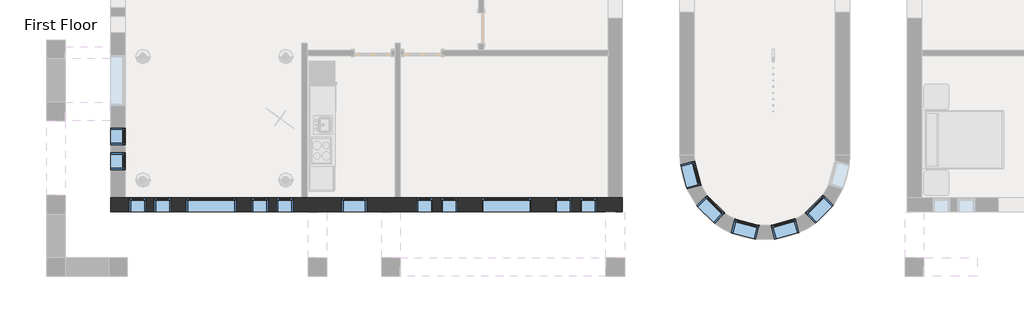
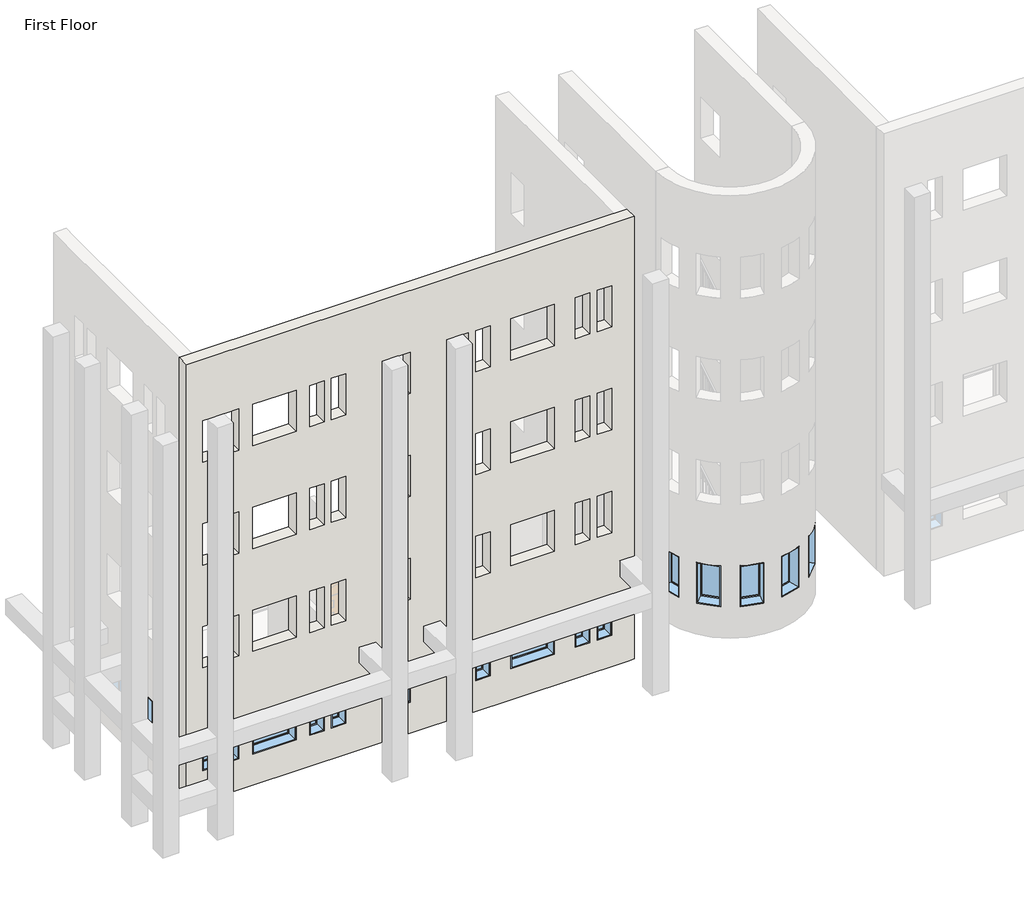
# One storey, part 1 of 23: 18 windows, 1 wall.
"""IFC4 building model written with IfcOpenShell, lengths in millimetres."""

from ifc_helpers import new_model, si_unit, origin, place, context, project, spatial, faceted_brep, transform, mapped, element, save
from components import window_da97879f, window_d61ef850, window_60baf983, window_ed80354a, window_6eb97611

model = new_model("IFC4")

# Units and contexts
model_context = context("Model", 3, world=origin())
ifc_project = project(units=[si_unit("LENGTHUNIT", "METRE", prefix="MILLI")], contexts=[model_context])

# Site, building, storey
site = spatial("IfcSite", under=ifc_project)
building = spatial("IfcBuilding", under=site)
storey = spatial("IfcBuildingStorey", under=building, Name="First Floor", Elevation=0.0)

# Wall
placement = place(None, origin())
element("IfcWall", 1, ObjectType="Exterior - Brick on Mtl. Stud", at=placement, inside=storey, context=model_context, shape_type="Brep", body=[
    faceted_brep([(-18554.6714563, -33878.3558133, 0.0), (-18741.9964563, -33878.3558133, 0.0), (-18907.0964563, -33878.3558133, 0.0), (-24001.3839563, -33878.3558133, 0.0), (-24128.3839563, -33878.3558133, 0.0), (-26287.3839563, -33878.3558133, 0.0), (-26414.3839563, -33878.3558133, 0.0), (-30746.6714563, -33878.3558133, 0.0), (-30911.7714563, -33878.3558133, 0.0), (-31099.0964563, -33878.3558133, 0.0), (-31099.0964563, -33878.3558133, 13106.4), (-30746.6714563, -33878.3558133, 13106.4), (-18907.0964563, -33878.3558133, 13106.4), (-18554.6714563, -33878.3558133, 13106.4), (-30033.8839563, -33878.3558133, 8229.6), (-30033.8839563, -33878.3558133, 7010.4), (-29627.4839563, -33878.3558133, 7010.4), (-29627.4839563, -33878.3558133, 8229.6), (-30643.4839563, -33878.3558133, 8229.6), (-30643.4839563, -33878.3558133, 7010.4), (-30237.0839563, -33878.3558133, 7010.4), (-30237.0839563, -33878.3558133, 8229.6), (-27239.8839563, -33878.3558133, 8229.6), (-27646.2839563, -33878.3558133, 8229.6), (-27646.2839563, -33878.3558133, 7010.4), (-27239.8839563, -33878.3558133, 7010.4), (-26630.2839563, -33878.3558133, 8229.6), (-27036.6839563, -33878.3558133, 8229.6), (-27036.6839563, -33878.3558133, 7010.4), (-26630.2839563, -33878.3558133, 7010.4), (-22998.0839563, -33878.3558133, 8229.6), (-22998.0839563, -33878.3558133, 7010.4), (-22591.6839563, -33878.3558133, 7010.4), (-22591.6839563, -33878.3558133, 8229.6), (-23607.6839563, -33878.3558133, 8229.6), (-23607.6839563, -33878.3558133, 7010.4), (-23201.2839563, -33878.3558133, 7010.4), (-23201.2839563, -33878.3558133, 8229.6), (-19797.6839563, -33878.3558133, 8229.6), (-20204.0839563, -33878.3558133, 8229.6), (-20204.0839563, -33878.3558133, 7010.4), (-19797.6839563, -33878.3558133, 7010.4), (-19188.0839563, -33878.3558133, 8229.6), (-19594.4839563, -33878.3558133, 8229.6), (-19594.4839563, -33878.3558133, 7010.4), (-19188.0839563, -33878.3558133, 7010.4), (-28027.2839563, -33878.3558133, 8229.6), (-29246.4839563, -33878.3558133, 8229.6), (-29246.4839563, -33878.3558133, 7010.4), (-28027.2839563, -33878.3558133, 7010.4), (-20788.2839563, -33878.3558133, 8229.6), (-22007.4839563, -33878.3558133, 8229.6), (-22007.4839563, -33878.3558133, 7010.4), (-20788.2839563, -33878.3558133, 7010.4), (-24826.8839563, -33878.3558133, 8229.6), (-25436.4839563, -33878.3558133, 8229.6), (-25436.4839563, -33878.3558133, 7010.4), (-24826.8839563, -33878.3558133, 7010.4), (-30033.8839563, -33878.3558133, 5181.6), (-30033.8839563, -33878.3558133, 3962.4), (-29627.4839563, -33878.3558133, 3962.4), (-29627.4839563, -33878.3558133, 5181.6), (-30643.4839563, -33878.3558133, 5181.6), (-30643.4839563, -33878.3558133, 3962.4), (-30237.0839563, -33878.3558133, 3962.4), (-30237.0839563, -33878.3558133, 5181.6), (-27239.8839563, -33878.3558133, 5181.6), (-27646.2839563, -33878.3558133, 5181.6), (-27646.2839563, -33878.3558133, 3962.4), (-27239.8839563, -33878.3558133, 3962.4), (-26630.2839563, -33878.3558133, 5181.6), (-27036.6839563, -33878.3558133, 5181.6), (-27036.6839563, -33878.3558133, 3962.4), (-26630.2839563, -33878.3558133, 3962.4), (-22998.0839563, -33878.3558133, 5181.6), (-22998.0839563, -33878.3558133, 3962.4), (-22591.6839563, -33878.3558133, 3962.4), (-22591.6839563, -33878.3558133, 5181.6), (-23607.6839563, -33878.3558133, 5181.6), (-23607.6839563, -33878.3558133, 3962.4), (-23201.2839563, -33878.3558133, 3962.4), (-23201.2839563, -33878.3558133, 5181.6), (-19797.6839563, -33878.3558133, 5181.6), (-20204.0839563, -33878.3558133, 5181.6), (-20204.0839563, -33878.3558133, 3962.4), (-19797.6839563, -33878.3558133, 3962.4), (-19188.0839563, -33878.3558133, 5181.6), (-19594.4839563, -33878.3558133, 5181.6), (-19594.4839563, -33878.3558133, 3962.4), (-19188.0839563, -33878.3558133, 3962.4), (-28027.2839563, -33878.3558133, 5181.6), (-29246.4839563, -33878.3558133, 5181.6), (-29246.4839563, -33878.3558133, 3962.4), (-28027.2839563, -33878.3558133, 3962.4), (-20788.2839563, -33878.3558133, 5181.6), (-22007.4839563, -33878.3558133, 5181.6), (-22007.4839563, -33878.3558133, 3962.4), (-20788.2839563, -33878.3558133, 3962.4), (-24826.8839563, -33878.3558133, 5181.6), (-25436.4839563, -33878.3558133, 5181.6), (-25436.4839563, -33878.3558133, 3962.4), (-24826.8839563, -33878.3558133, 3962.4), (-30033.8839563, -33878.3558133, 11277.6), (-30033.8839563, -33878.3558133, 10058.4), (-29627.4839563, -33878.3558133, 10058.4), (-29627.4839563, -33878.3558133, 11277.6), (-30643.4839563, -33878.3558133, 11277.6), (-30643.4839563, -33878.3558133, 10058.4), (-30237.0839563, -33878.3558133, 10058.4), (-30237.0839563, -33878.3558133, 11277.6), (-27239.8839563, -33878.3558133, 11277.6), (-27646.2839563, -33878.3558133, 11277.6), (-27646.2839563, -33878.3558133, 10058.4), (-27239.8839563, -33878.3558133, 10058.4), (-26630.2839563, -33878.3558133, 11277.6), (-27036.6839563, -33878.3558133, 11277.6), (-27036.6839563, -33878.3558133, 10058.4), (-26630.2839563, -33878.3558133, 10058.4), (-22998.0839563, -33878.3558133, 11277.6), (-22998.0839563, -33878.3558133, 10058.4), (-22591.6839563, -33878.3558133, 10058.4), (-22591.6839563, -33878.3558133, 11277.6), (-23607.6839563, -33878.3558133, 11277.6), (-23607.6839563, -33878.3558133, 10058.4), (-23201.2839563, -33878.3558133, 10058.4), (-23201.2839563, -33878.3558133, 11277.6), (-19797.6839563, -33878.3558133, 11277.6), (-20204.0839563, -33878.3558133, 11277.6), (-20204.0839563, -33878.3558133, 10058.4), (-19797.6839563, -33878.3558133, 10058.4), (-19188.0839563, -33878.3558133, 11277.6), (-19594.4839563, -33878.3558133, 11277.6), (-19594.4839563, -33878.3558133, 10058.4), (-19188.0839563, -33878.3558133, 10058.4), (-28027.2839563, -33878.3558133, 11277.6), (-29246.4839563, -33878.3558133, 11277.6), (-29246.4839563, -33878.3558133, 10058.4), (-28027.2839563, -33878.3558133, 10058.4), (-20788.2839563, -33878.3558133, 11277.6), (-22007.4839563, -33878.3558133, 11277.6), (-22007.4839563, -33878.3558133, 10058.4), (-20788.2839563, -33878.3558133, 10058.4), (-24826.8839563, -33878.3558133, 11277.6), (-25436.4839563, -33878.3558133, 11277.6), (-25436.4839563, -33878.3558133, 10058.4), (-24826.8839563, -33878.3558133, 10058.4), (-30033.8839563, -33878.3558133, 2133.6), (-30033.8839563, -33878.3558133, 914.4), (-29627.4839563, -33878.3558133, 914.4), (-29627.4839563, -33878.3558133, 2133.6), (-30643.4839563, -33878.3558133, 2133.6), (-30643.4839563, -33878.3558133, 914.4), (-30237.0839563, -33878.3558133, 914.4), (-30237.0839563, -33878.3558133, 2133.6), (-27239.8839563, -33878.3558133, 2133.6), (-27646.2839563, -33878.3558133, 2133.6), (-27646.2839563, -33878.3558133, 914.4), (-27239.8839563, -33878.3558133, 914.4), (-26630.2839563, -33878.3558133, 2133.6), (-27036.6839563, -33878.3558133, 2133.6), (-27036.6839563, -33878.3558133, 914.4), (-26630.2839563, -33878.3558133, 914.4), (-22998.0839563, -33878.3558133, 2133.6), (-22998.0839563, -33878.3558133, 914.4), (-22591.6839563, -33878.3558133, 914.4), (-22591.6839563, -33878.3558133, 2133.6), (-23607.6839563, -33878.3558133, 2133.6), (-23607.6839563, -33878.3558133, 914.4), (-23201.2839563, -33878.3558133, 914.4), (-23201.2839563, -33878.3558133, 2133.6), (-19797.6839563, -33878.3558133, 2133.6), (-20204.0839563, -33878.3558133, 2133.6), (-20204.0839563, -33878.3558133, 914.4), (-19797.6839563, -33878.3558133, 914.4), (-19188.0839563, -33878.3558133, 2133.6), (-19594.4839563, -33878.3558133, 2133.6), (-19594.4839563, -33878.3558133, 914.4), (-19188.0839563, -33878.3558133, 914.4), (-28027.2839563, -33878.3558133, 2133.6), (-29246.4839563, -33878.3558133, 2133.6), (-29246.4839563, -33878.3558133, 914.4), (-28027.2839563, -33878.3558133, 914.4), (-20788.2839563, -33878.3558133, 2133.6), (-22007.4839563, -33878.3558133, 2133.6), (-22007.4839563, -33878.3558133, 914.4), (-20788.2839563, -33878.3558133, 914.4), (-24826.8839563, -33878.3558133, 2133.6), (-25436.4839563, -33878.3558133, 2133.6), (-25436.4839563, -33878.3558133, 914.4), (-24826.8839563, -33878.3558133, 914.4), (-18554.6714563, -34230.7808133, 0.0), (-18554.6714563, -34230.7808133, 13106.4), (-31099.0964563, -34230.7808133, 13106.4), (-31099.0964563, -34230.7808133, 0.0), (-30911.7714563, -34230.7808133, 0.0), (-18741.9964563, -34230.7808133, 0.0), (-30033.8839563, -34230.7808133, 8229.6), (-29627.4839563, -34230.7808133, 8229.6), (-29627.4839563, -34230.7808133, 7010.4), (-30033.8839563, -34230.7808133, 7010.4), (-30643.4839563, -34230.7808133, 8229.6), (-30237.0839563, -34230.7808133, 8229.6), (-30237.0839563, -34230.7808133, 7010.4), (-30643.4839563, -34230.7808133, 7010.4), (-27239.8839563, -34230.7808133, 8229.6), (-27239.8839563, -34230.7808133, 7010.4), (-27646.2839563, -34230.7808133, 7010.4), (-27646.2839563, -34230.7808133, 8229.6), (-26630.2839563, -34230.7808133, 8229.6), (-26630.2839563, -34230.7808133, 7010.4), (-27036.6839563, -34230.7808133, 7010.4), (-27036.6839563, -34230.7808133, 8229.6), (-22998.0839563, -34230.7808133, 8229.6), (-22591.6839563, -34230.7808133, 8229.6), (-22591.6839563, -34230.7808133, 7010.4), (-22998.0839563, -34230.7808133, 7010.4), (-23607.6839563, -34230.7808133, 8229.6), (-23201.2839563, -34230.7808133, 8229.6), (-23201.2839563, -34230.7808133, 7010.4), (-23607.6839563, -34230.7808133, 7010.4), (-19797.6839563, -34230.7808133, 8229.6), (-19797.6839563, -34230.7808133, 7010.4), (-20204.0839563, -34230.7808133, 7010.4), (-20204.0839563, -34230.7808133, 8229.6), (-19188.0839563, -34230.7808133, 8229.6), (-19188.0839563, -34230.7808133, 7010.4), (-19594.4839563, -34230.7808133, 7010.4), (-19594.4839563, -34230.7808133, 8229.6), (-28027.2839563, -34230.7808133, 8229.6), (-28027.2839563, -34230.7808133, 7010.4), (-29246.4839563, -34230.7808133, 7010.4), (-29246.4839563, -34230.7808133, 8229.6), (-20788.2839563, -34230.7808133, 8229.6), (-20788.2839563, -34230.7808133, 7010.4), (-22007.4839563, -34230.7808133, 7010.4), (-22007.4839563, -34230.7808133, 8229.6), (-24826.8839563, -34230.7808133, 8229.6), (-24826.8839563, -34230.7808133, 7010.4), (-25436.4839563, -34230.7808133, 7010.4), (-25436.4839563, -34230.7808133, 8229.6), (-30033.8839563, -34230.7808133, 5181.6), (-29627.4839563, -34230.7808133, 5181.6), (-29627.4839563, -34230.7808133, 3962.4), (-30033.8839563, -34230.7808133, 3962.4), (-30643.4839563, -34230.7808133, 5181.6), (-30237.0839563, -34230.7808133, 5181.6), (-30237.0839563, -34230.7808133, 3962.4), (-30643.4839563, -34230.7808133, 3962.4), (-27239.8839563, -34230.7808133, 5181.6), (-27239.8839563, -34230.7808133, 3962.4), (-27646.2839563, -34230.7808133, 3962.4), (-27646.2839563, -34230.7808133, 5181.6), (-26630.2839563, -34230.7808133, 5181.6), (-26630.2839563, -34230.7808133, 3962.4), (-27036.6839563, -34230.7808133, 3962.4), (-27036.6839563, -34230.7808133, 5181.6), (-22998.0839563, -34230.7808133, 5181.6), (-22591.6839563, -34230.7808133, 5181.6), (-22591.6839563, -34230.7808133, 3962.4), (-22998.0839563, -34230.7808133, 3962.4), (-23607.6839563, -34230.7808133, 5181.6), (-23201.2839563, -34230.7808133, 5181.6), (-23201.2839563, -34230.7808133, 3962.4), (-23607.6839563, -34230.7808133, 3962.4), (-19797.6839563, -34230.7808133, 5181.6), (-19797.6839563, -34230.7808133, 3962.4), (-20204.0839563, -34230.7808133, 3962.4), (-20204.0839563, -34230.7808133, 5181.6), (-19188.0839563, -34230.7808133, 5181.6), (-19188.0839563, -34230.7808133, 3962.4), (-19594.4839563, -34230.7808133, 3962.4), (-19594.4839563, -34230.7808133, 5181.6), (-28027.2839563, -34230.7808133, 5181.6), (-28027.2839563, -34230.7808133, 3962.4), (-29246.4839563, -34230.7808133, 3962.4), (-29246.4839563, -34230.7808133, 5181.6), (-20788.2839563, -34230.7808133, 5181.6), (-20788.2839563, -34230.7808133, 3962.4), (-22007.4839563, -34230.7808133, 3962.4), (-22007.4839563, -34230.7808133, 5181.6), (-24826.8839563, -34230.7808133, 5181.6), (-24826.8839563, -34230.7808133, 3962.4), (-25436.4839563, -34230.7808133, 3962.4), (-25436.4839563, -34230.7808133, 5181.6), (-30033.8839563, -34230.7808133, 11277.6), (-29627.4839563, -34230.7808133, 11277.6), (-29627.4839563, -34230.7808133, 10058.4), (-30033.8839563, -34230.7808133, 10058.4), (-30643.4839563, -34230.7808133, 11277.6), (-30237.0839563, -34230.7808133, 11277.6), (-30237.0839563, -34230.7808133, 10058.4), (-30643.4839563, -34230.7808133, 10058.4), (-27239.8839563, -34230.7808133, 11277.6), (-27239.8839563, -34230.7808133, 10058.4), (-27646.2839563, -34230.7808133, 10058.4), (-27646.2839563, -34230.7808133, 11277.6), (-26630.2839563, -34230.7808133, 11277.6), (-26630.2839563, -34230.7808133, 10058.4), (-27036.6839563, -34230.7808133, 10058.4), (-27036.6839563, -34230.7808133, 11277.6), (-22998.0839563, -34230.7808133, 11277.6), (-22591.6839563, -34230.7808133, 11277.6), (-22591.6839563, -34230.7808133, 10058.4), (-22998.0839563, -34230.7808133, 10058.4), (-23607.6839563, -34230.7808133, 11277.6), (-23201.2839563, -34230.7808133, 11277.6), (-23201.2839563, -34230.7808133, 10058.4), (-23607.6839563, -34230.7808133, 10058.4), (-19797.6839563, -34230.7808133, 11277.6), (-19797.6839563, -34230.7808133, 10058.4), (-20204.0839563, -34230.7808133, 10058.4), (-20204.0839563, -34230.7808133, 11277.6), (-19188.0839563, -34230.7808133, 11277.6), (-19188.0839563, -34230.7808133, 10058.4), (-19594.4839563, -34230.7808133, 10058.4), (-19594.4839563, -34230.7808133, 11277.6), (-28027.2839563, -34230.7808133, 11277.6), (-28027.2839563, -34230.7808133, 10058.4), (-29246.4839563, -34230.7808133, 10058.4), (-29246.4839563, -34230.7808133, 11277.6), (-20788.2839563, -34230.7808133, 11277.6), (-20788.2839563, -34230.7808133, 10058.4), (-22007.4839563, -34230.7808133, 10058.4), (-22007.4839563, -34230.7808133, 11277.6), (-24826.8839563, -34230.7808133, 11277.6), (-24826.8839563, -34230.7808133, 10058.4), (-25436.4839563, -34230.7808133, 10058.4), (-25436.4839563, -34230.7808133, 11277.6), (-30033.8839563, -34230.7808133, 2133.6), (-29627.4839563, -34230.7808133, 2133.6), (-29627.4839563, -34230.7808133, 914.4), (-30033.8839563, -34230.7808133, 914.4), (-30643.4839563, -34230.7808133, 2133.6), (-30237.0839563, -34230.7808133, 2133.6), (-30237.0839563, -34230.7808133, 914.4), (-30643.4839563, -34230.7808133, 914.4), (-27239.8839563, -34230.7808133, 2133.6), (-27239.8839563, -34230.7808133, 914.4), (-27646.2839563, -34230.7808133, 914.4), (-27646.2839563, -34230.7808133, 2133.6), (-26630.2839563, -34230.7808133, 2133.6), (-26630.2839563, -34230.7808133, 914.4), (-27036.6839563, -34230.7808133, 914.4), (-27036.6839563, -34230.7808133, 2133.6), (-22998.0839563, -34230.7808133, 2133.6), (-22591.6839563, -34230.7808133, 2133.6), (-22591.6839563, -34230.7808133, 914.4), (-22998.0839563, -34230.7808133, 914.4), (-23607.6839563, -34230.7808133, 2133.6), (-23201.2839563, -34230.7808133, 2133.6), (-23201.2839563, -34230.7808133, 914.4), (-23607.6839563, -34230.7808133, 914.4), (-19797.6839563, -34230.7808133, 2133.6), (-19797.6839563, -34230.7808133, 914.4), (-20204.0839563, -34230.7808133, 914.4), (-20204.0839563, -34230.7808133, 2133.6), (-19188.0839563, -34230.7808133, 2133.6), (-19188.0839563, -34230.7808133, 914.4), (-19594.4839563, -34230.7808133, 914.4), (-19594.4839563, -34230.7808133, 2133.6), (-28027.2839563, -34230.7808133, 2133.6), (-28027.2839563, -34230.7808133, 914.4), (-29246.4839563, -34230.7808133, 914.4), (-29246.4839563, -34230.7808133, 2133.6), (-20788.2839563, -34230.7808133, 2133.6), (-20788.2839563, -34230.7808133, 914.4), (-22007.4839563, -34230.7808133, 914.4), (-22007.4839563, -34230.7808133, 2133.6), (-24826.8839563, -34230.7808133, 2133.6), (-24826.8839563, -34230.7808133, 914.4), (-25436.4839563, -34230.7808133, 914.4), (-25436.4839563, -34230.7808133, 2133.6), (-31099.0964563, -34043.4558133, 0.0), (-18554.6714563, -34043.4558133, 0.0), (-18741.9964563, -34043.4558133, 0.0), (-30911.7714563, -34043.4558133, 0.0)], [[[0, 1, 2, 3, 4, 5, 6, 7, 8, 9, 10, 11, 12, 13], [14, 15, 16, 17], [18, 19, 20, 21], [22, 23, 24, 25], [26, 27, 28, 29], [30, 31, 32, 33], [34, 35, 36, 37], [38, 39, 40, 41], [42, 43, 44, 45], [46, 47, 48, 49], [50, 51, 52, 53], [54, 55, 56, 57], [58, 59, 60, 61], [62, 63, 64, 65], [66, 67, 68, 69], [70, 71, 72, 73], [74, 75, 76, 77], [78, 79, 80, 81], [82, 83, 84, 85], [86, 87, 88, 89], [90, 91, 92, 93], [94, 95, 96, 97], [98, 99, 100, 101], [102, 103, 104, 105], [106, 107, 108, 109], [110, 111, 112, 113], [114, 115, 116, 117], [118, 119, 120, 121], [122, 123, 124, 125], [126, 127, 128, 129], [130, 131, 132, 133], [134, 135, 136, 137], [138, 139, 140, 141], [142, 143, 144, 145], [146, 147, 148, 149], [150, 151, 152, 153], [154, 155, 156, 157], [158, 159, 160, 161], [162, 163, 164, 165], [166, 167, 168, 169], [170, 171, 172, 173], [174, 175, 176, 177], [178, 179, 180, 181], [182, 183, 184, 185], [186, 187, 188, 189]], [[190, 191, 192, 193, 194, 195], [196, 197, 198, 199], [200, 201, 202, 203], [204, 205, 206, 207], [208, 209, 210, 211], [212, 213, 214, 215], [216, 217, 218, 219], [220, 221, 222, 223], [224, 225, 226, 227], [228, 229, 230, 231], [232, 233, 234, 235], [236, 237, 238, 239], [240, 241, 242, 243], [244, 245, 246, 247], [248, 249, 250, 251], [252, 253, 254, 255], [256, 257, 258, 259], [260, 261, 262, 263], [264, 265, 266, 267], [268, 269, 270, 271], [272, 273, 274, 275], [276, 277, 278, 279], [280, 281, 282, 283], [284, 285, 286, 287], [288, 289, 290, 291], [292, 293, 294, 295], [296, 297, 298, 299], [300, 301, 302, 303], [304, 305, 306, 307], [308, 309, 310, 311], [312, 313, 314, 315], [316, 317, 318, 319], [320, 321, 322, 323], [324, 325, 326, 327], [328, 329, 330, 331], [332, 333, 334, 335], [336, 337, 338, 339], [340, 341, 342, 343], [344, 345, 346, 347], [348, 349, 350, 351], [352, 353, 354, 355], [356, 357, 358, 359], [360, 361, 362, 363], [364, 365, 366, 367], [368, 369, 370, 371]], [[13, 12, 11, 10, 192, 191]], [[10, 9, 372, 193, 192]], [[0, 13, 191, 190, 373]], [[1, 0, 373, 374]], [[373, 190, 195, 374]], [[9, 8, 375, 372]], [[195, 194, 375, 374]], [[194, 193, 372, 375]], [[8, 7, 6, 5, 4, 3, 2, 1, 374, 375]], [[15, 14, 196, 199]], [[16, 15, 199, 198]], [[17, 16, 198, 197]], [[14, 17, 197, 196]], [[19, 18, 200, 203]], [[20, 19, 203, 202]], [[21, 20, 202, 201]], [[18, 21, 201, 200]], [[205, 204, 22, 25]], [[206, 205, 25, 24]], [[207, 206, 24, 23]], [[204, 207, 23, 22]], [[209, 208, 26, 29]], [[210, 209, 29, 28]], [[211, 210, 28, 27]], [[208, 211, 27, 26]], [[31, 30, 212, 215]], [[32, 31, 215, 214]], [[33, 32, 214, 213]], [[30, 33, 213, 212]], [[35, 34, 216, 219]], [[36, 35, 219, 218]], [[37, 36, 218, 217]], [[34, 37, 217, 216]], [[221, 220, 38, 41]], [[222, 221, 41, 40]], [[223, 222, 40, 39]], [[220, 223, 39, 38]], [[225, 224, 42, 45]], [[226, 225, 45, 44]], [[227, 226, 44, 43]], [[224, 227, 43, 42]], [[229, 228, 46, 49]], [[230, 229, 49, 48]], [[231, 230, 48, 47]], [[228, 231, 47, 46]], [[233, 232, 50, 53]], [[234, 233, 53, 52]], [[235, 234, 52, 51]], [[232, 235, 51, 50]], [[237, 236, 54, 57]], [[238, 237, 57, 56]], [[239, 238, 56, 55]], [[236, 239, 55, 54]], [[59, 58, 240, 243]], [[60, 59, 243, 242]], [[61, 60, 242, 241]], [[58, 61, 241, 240]], [[63, 62, 244, 247]], [[64, 63, 247, 246]], [[65, 64, 246, 245]], [[62, 65, 245, 244]], [[249, 248, 66, 69]], [[250, 249, 69, 68]], [[251, 250, 68, 67]], [[248, 251, 67, 66]], [[253, 252, 70, 73]], [[254, 253, 73, 72]], [[255, 254, 72, 71]], [[252, 255, 71, 70]], [[75, 74, 256, 259]], [[76, 75, 259, 258]], [[77, 76, 258, 257]], [[74, 77, 257, 256]], [[79, 78, 260, 263]], [[80, 79, 263, 262]], [[81, 80, 262, 261]], [[78, 81, 261, 260]], [[265, 264, 82, 85]], [[266, 265, 85, 84]], [[267, 266, 84, 83]], [[264, 267, 83, 82]], [[269, 268, 86, 89]], [[270, 269, 89, 88]], [[271, 270, 88, 87]], [[268, 271, 87, 86]], [[273, 272, 90, 93]], [[274, 273, 93, 92]], [[275, 274, 92, 91]], [[272, 275, 91, 90]], [[277, 276, 94, 97]], [[278, 277, 97, 96]], [[279, 278, 96, 95]], [[276, 279, 95, 94]], [[281, 280, 98, 101]], [[282, 281, 101, 100]], [[283, 282, 100, 99]], [[280, 283, 99, 98]], [[103, 102, 284, 287]], [[104, 103, 287, 286]], [[105, 104, 286, 285]], [[102, 105, 285, 284]], [[107, 106, 288, 291]], [[108, 107, 291, 290]], [[109, 108, 290, 289]], [[106, 109, 289, 288]], [[293, 292, 110, 113]], [[294, 293, 113, 112]], [[295, 294, 112, 111]], [[292, 295, 111, 110]], [[297, 296, 114, 117]], [[298, 297, 117, 116]], [[299, 298, 116, 115]], [[296, 299, 115, 114]], [[119, 118, 300, 303]], [[120, 119, 303, 302]], [[121, 120, 302, 301]], [[118, 121, 301, 300]], [[123, 122, 304, 307]], [[124, 123, 307, 306]], [[125, 124, 306, 305]], [[122, 125, 305, 304]], [[309, 308, 126, 129]], [[310, 309, 129, 128]], [[311, 310, 128, 127]], [[308, 311, 127, 126]], [[313, 312, 130, 133]], [[314, 313, 133, 132]], [[315, 314, 132, 131]], [[312, 315, 131, 130]], [[317, 316, 134, 137]], [[318, 317, 137, 136]], [[319, 318, 136, 135]], [[316, 319, 135, 134]], [[321, 320, 138, 141]], [[322, 321, 141, 140]], [[323, 322, 140, 139]], [[320, 323, 139, 138]], [[325, 324, 142, 145]], [[326, 325, 145, 144]], [[327, 326, 144, 143]], [[324, 327, 143, 142]], [[147, 146, 328, 331]], [[148, 147, 331, 330]], [[149, 148, 330, 329]], [[146, 149, 329, 328]], [[151, 150, 332, 335]], [[152, 151, 335, 334]], [[153, 152, 334, 333]], [[150, 153, 333, 332]], [[337, 336, 154, 157]], [[338, 337, 157, 156]], [[339, 338, 156, 155]], [[336, 339, 155, 154]], [[341, 340, 158, 161]], [[342, 341, 161, 160]], [[343, 342, 160, 159]], [[340, 343, 159, 158]], [[163, 162, 344, 347]], [[164, 163, 347, 346]], [[165, 164, 346, 345]], [[162, 165, 345, 344]], [[167, 166, 348, 351]], [[168, 167, 351, 350]], [[169, 168, 350, 349]], [[166, 169, 349, 348]], [[353, 352, 170, 173]], [[354, 353, 173, 172]], [[355, 354, 172, 171]], [[352, 355, 171, 170]], [[357, 356, 174, 177]], [[358, 357, 177, 176]], [[359, 358, 176, 175]], [[356, 359, 175, 174]], [[361, 360, 178, 181]], [[362, 361, 181, 180]], [[363, 362, 180, 179]], [[360, 363, 179, 178]], [[365, 364, 182, 185]], [[366, 365, 185, 184]], [[367, 366, 184, 183]], [[364, 367, 183, 182]], [[369, 368, 186, 189]], [[370, 369, 189, 188]], [[371, 370, 188, 187]], [[368, 371, 187, 186]]]),
])

# Windows
window_shape = window_da97879f(model_context)
element("IfcWindow", 2, ObjectType="Fixed : 16\" x 48\"", at=placement, inside=storey, context=model_context, shape_type="MappedRepresentation", body=[
    mapped(window_shape, transform((-19353.1839563, -34054.5683133, 0.0), x_axis=(1.0, 0.0, 0.0), y_axis=(0.0, 1.0, 0.0), z_axis=(0.0, 0.0, 1.0))),
])
element("IfcWindow", 3, ObjectType="Fixed : 16\" x 48\"", at=placement, inside=storey, context=model_context, shape_type="MappedRepresentation", body=[
    mapped(window_shape, transform((-19962.7839563, -34054.5683133, 0.0), x_axis=(1.0, 0.0, 0.0), y_axis=(0.0, 1.0, 0.0), z_axis=(0.0, 0.0, 1.0))),
])
element("IfcWindow", 4, ObjectType="Fixed : 16\" x 48\"", at=placement, inside=storey, context=model_context, shape_type="MappedRepresentation", body=[
    mapped(window_shape, transform((-26795.3839563, -34054.5683133, 0.0), x_axis=(1.0, 0.0, 0.0), y_axis=(0.0, 1.0, 0.0), z_axis=(0.0, 0.0, 1.0))),
])
element("IfcWindow", 5, ObjectType="Fixed : 16\" x 48\"", at=placement, inside=storey, context=model_context, shape_type="MappedRepresentation", body=[
    mapped(window_shape, transform((-27404.9839563, -34054.5683133, 0.0), x_axis=(1.0, 0.0, 0.0), y_axis=(0.0, 1.0, 0.0), z_axis=(0.0, 0.0, 1.0))),
])
element("IfcWindow", 6, ObjectType="Fixed : 16\" x 48\"", at=placement, inside=storey, context=model_context, shape_type="MappedRepresentation", body=[
    mapped(window_shape, transform((-30922.8839563, -33025.8683133, 0.0), x_axis=(0.0, -1.0, 0.0), y_axis=(1.0, 0.0, 0.0), z_axis=(0.0, 0.0, 1.0))),
])
element("IfcWindow", 7, ObjectType="Fixed : 16\" x 48\"", at=placement, inside=storey, context=model_context, shape_type="MappedRepresentation", body=[
    mapped(window_shape, transform((-30922.8839563, -32416.2683133, 0.0), x_axis=(0.0, -1.0, 0.0), y_axis=(1.0, 0.0, 0.0), z_axis=(0.0, 0.0, 1.0))),
])
window_2_shape = window_d61ef850(model_context)
element("IfcWindow", 8, ObjectType="Fixed : 16\" x 48\"", at=placement, inside=storey, context=model_context, shape_type="MappedRepresentation", body=[
    mapped(window_2_shape, transform((-23442.5839563, -34054.5683133, 0.0), x_axis=(-1.0, 0.0, 0.0), y_axis=(0.0, -1.0, 0.0), z_axis=(0.0, 0.0, 1.0))),
])
element("IfcWindow", 9, ObjectType="Fixed : 16\" x 48\"", at=placement, inside=storey, context=model_context, shape_type="MappedRepresentation", body=[
    mapped(window_2_shape, transform((-22832.9839563, -34054.5683133, 0.0), x_axis=(-1.0, 0.0, 0.0), y_axis=(0.0, -1.0, 0.0), z_axis=(0.0, 0.0, 1.0))),
])
element("IfcWindow", 10, ObjectType="Fixed : 16\" x 48\"", at=placement, inside=storey, context=model_context, shape_type="MappedRepresentation", body=[
    mapped(window_2_shape, transform((-30478.3839563, -34054.5683133, 0.0), x_axis=(-1.0, 0.0, 0.0), y_axis=(0.0, -1.0, 0.0), z_axis=(0.0, 0.0, 1.0))),
])
element("IfcWindow", 11, ObjectType="Fixed : 16\" x 48\"", at=placement, inside=storey, context=model_context, shape_type="MappedRepresentation", body=[
    mapped(window_2_shape, transform((-29868.7839563, -34054.5683133, 0.0), x_axis=(-1.0, 0.0, 0.0), y_axis=(0.0, -1.0, 0.0), z_axis=(0.0, 0.0, 1.0))),
])
window_3_shape = window_60baf983(model_context)
element("IfcWindow", 12, ObjectType="Fixed : 24\" x 48\"", at=placement, inside=storey, context=model_context, shape_type="MappedRepresentation", body=[
    mapped(window_3_shape, transform((-25093.5839563, -34054.5683133, 0.0), x_axis=(1.0, 0.0, 0.0), y_axis=(0.0, 1.0, 0.0), z_axis=(0.0, 0.0, 1.0))),
])
window_4_shape = window_ed80354a(model_context)
element("IfcWindow", 13, ObjectType="Fixed : 24\" x 48\"", at=placement, inside=storey, context=model_context, shape_type="MappedRepresentation", body=[
    mapped(window_4_shape, transform((-16884.5848795, -33290.1635131, 0.0), x_axis=(-0.26176149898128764, 0.965132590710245, 0.0), y_axis=(-0.965132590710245, -0.26176149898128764, 0.0), z_axis=(0.0, 0.0, 1.0))),
])
element("IfcWindow", 14, ObjectType="Fixed : 24\" x 48\"", at=placement, inside=storey, context=model_context, shape_type="MappedRepresentation", body=[
    mapped(window_4_shape, transform((-16413.0301771, -34140.4392215, 0.0), x_axis=(-0.7092584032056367, 0.7049485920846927, 0.0), y_axis=(-0.7049485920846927, -0.7092584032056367, 0.0), z_axis=(0.0, 0.0, 1.0))),
])
element("IfcWindow", 15, ObjectType="Fixed : 24\" x 48\"", at=placement, inside=storey, context=model_context, shape_type="MappedRepresentation", body=[
    mapped(window_4_shape, transform((-15579.5139714, -34641.0222339, 0.0), x_axis=(-0.9667100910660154, 0.25587418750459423, 0.0), y_axis=(-0.25587418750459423, -0.9667100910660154, 0.0), z_axis=(0.0, 0.0, 1.0))),
])
element("IfcWindow", 16, ObjectType="Fixed : 24\" x 48\"", at=placement, inside=storey, context=model_context, shape_type="MappedRepresentation", body=[
    mapped(window_4_shape, transform((-14607.3762565, -34657.7817365, 0.0), x_axis=(-0.965132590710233, -0.2617614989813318, 0.0), y_axis=(0.2617614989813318, -0.965132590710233, 0.0), z_axis=(0.0, 0.0, 1.0))),
])
element("IfcWindow", 17, ObjectType="Fixed : 24\" x 48\"", at=placement, inside=storey, context=model_context, shape_type="MappedRepresentation", body=[
    mapped(window_4_shape, transform((-13757.1005482, -34186.2270341, 0.0), x_axis=(-0.704948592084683, -0.7092584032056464, 0.0), y_axis=(0.7092584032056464, -0.704948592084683, 0.0), z_axis=(0.0, 0.0, 1.0))),
])
window_5_shape = window_6eb97611(model_context)
element("IfcWindow", 18, ObjectType="Fixed : 48\" x 48\"", at=placement, inside=storey, context=model_context, shape_type="MappedRepresentation", body=[
    mapped(window_5_shape, transform((-21359.7839563, -34054.5683133, 0.0), x_axis=(1.0, 0.0, 0.0), y_axis=(0.0, 1.0, 0.0), z_axis=(0.0, 0.0, 1.0))),
])
element("IfcWindow", 19, ObjectType="Fixed : 48\" x 48\"", at=placement, inside=storey, context=model_context, shape_type="MappedRepresentation", body=[
    mapped(window_5_shape, transform((-28598.7839563, -34054.5683133, 0.0), x_axis=(1.0, 0.0, 0.0), y_axis=(0.0, 1.0, 0.0), z_axis=(0.0, 0.0, 1.0))),
])

save(model, "model.ifc")
